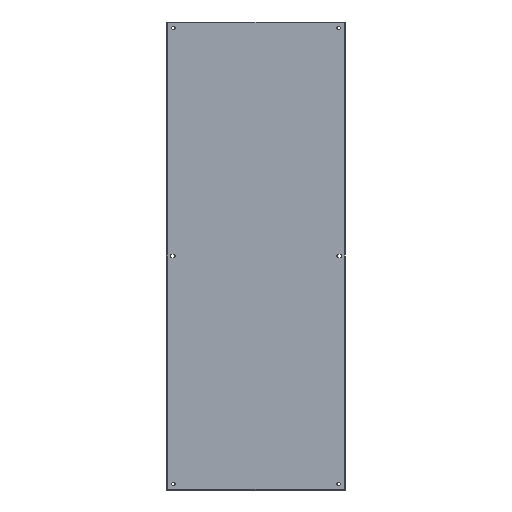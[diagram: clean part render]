
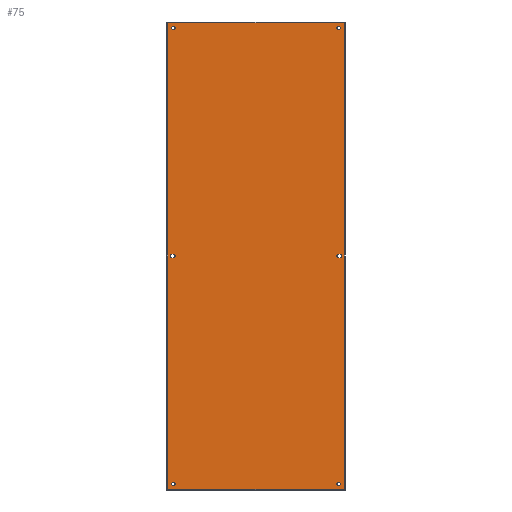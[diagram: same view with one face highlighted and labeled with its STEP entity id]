
A CAD part, front view. The second image highlights one B-rep face of the part: STEP entity #75.
In plain terms, the highlighted planar face has unit normal (0, -1, 0).
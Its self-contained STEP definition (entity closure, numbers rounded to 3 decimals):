
#75 = ADVANCED_FACE( '', ( #154, #155, #156, #157, #158, #159, #160 ), #161, .T. );
#154 = FACE_BOUND( '', #326, .T. );
#155 = FACE_BOUND( '', #327, .T. );
#156 = FACE_BOUND( '', #328, .T. );
#157 = FACE_BOUND( '', #329, .T. );
#158 = FACE_BOUND( '', #330, .T. );
#159 = FACE_OUTER_BOUND( '', #331, .T. );
#160 = FACE_BOUND( '', #332, .T. );
#161 = PLANE( '', #333 );
#326 = EDGE_LOOP( '', ( #906, #907, #908, #909 ) );
#327 = EDGE_LOOP( '', ( #910 ) );
#328 = EDGE_LOOP( '', ( #911 ) );
#329 = EDGE_LOOP( '', ( #912 ) );
#330 = EDGE_LOOP( '', ( #913 ) );
#331 = EDGE_LOOP( '', ( #914, #915, #916, #917 ) );
#332 = EDGE_LOOP( '', ( #918, #919, #920, #921 ) );
#333 = AXIS2_PLACEMENT_3D( '', #922, #923, #924 );
#906 = ORIENTED_EDGE( '', *, *, #1516, .T. );
#907 = ORIENTED_EDGE( '', *, *, #1517, .T. );
#908 = ORIENTED_EDGE( '', *, *, #1518, .T. );
#909 = ORIENTED_EDGE( '', *, *, #1519, .T. );
#910 = ORIENTED_EDGE( '', *, *, #1520, .F. );
#911 = ORIENTED_EDGE( '', *, *, #1521, .F. );
#912 = ORIENTED_EDGE( '', *, *, #1522, .F. );
#913 = ORIENTED_EDGE( '', *, *, #1523, .F. );
#914 = ORIENTED_EDGE( '', *, *, #1524, .F. );
#915 = ORIENTED_EDGE( '', *, *, #1525, .T. );
#916 = ORIENTED_EDGE( '', *, *, #1526, .F. );
#917 = ORIENTED_EDGE( '', *, *, #1527, .T. );
#918 = ORIENTED_EDGE( '', *, *, #1528, .T. );
#919 = ORIENTED_EDGE( '', *, *, #1529, .T. );
#920 = ORIENTED_EDGE( '', *, *, #1530, .T. );
#921 = ORIENTED_EDGE( '', *, *, #1531, .T. );
#922 = CARTESIAN_POINT( '', ( -333.375, 0., -873.125 ) );
#923 = DIRECTION( '', ( 0., -1., 0. ) );
#924 = DIRECTION( '', ( 0., 0., -1. ) );
#1516 = EDGE_CURVE( '', #1716, #1717, #1718, .T. );
#1517 = EDGE_CURVE( '', #1717, #1719, #1720, .T. );
#1518 = EDGE_CURVE( '', #1719, #1721, #1722, .T. );
#1519 = EDGE_CURVE( '', #1721, #1716, #1723, .T. );
#1520 = EDGE_CURVE( '', #1724, #1724, #1725, .T. );
#1521 = EDGE_CURVE( '', #1726, #1726, #1727, .T. );
#1522 = EDGE_CURVE( '', #1728, #1728, #1729, .T. );
#1523 = EDGE_CURVE( '', #1730, #1730, #1731, .T. );
#1524 = EDGE_CURVE( '', #1732, #1733, #1734, .T. );
#1525 = EDGE_CURVE( '', #1732, #1735, #1736, .T. );
#1526 = EDGE_CURVE( '', #1737, #1735, #1738, .T. );
#1527 = EDGE_CURVE( '', #1737, #1733, #1739, .T. );
#1528 = EDGE_CURVE( '', #1740, #1741, #1742, .T. );
#1529 = EDGE_CURVE( '', #1741, #1743, #1744, .T. );
#1530 = EDGE_CURVE( '', #1743, #1745, #1746, .T. );
#1531 = EDGE_CURVE( '', #1745, #1740, #1747, .T. );
#1716 = VERTEX_POINT( '', #2044 );
#1717 = VERTEX_POINT( '', #2045 );
#1718 = LINE( '', #2046, #2047 );
#1719 = VERTEX_POINT( '', #2048 );
#1720 = CIRCLE( '', #2049, 6.35 );
#1721 = VERTEX_POINT( '', #2050 );
#1722 = LINE( '', #2051, #2052 );
#1723 = CIRCLE( '', #2053, 6.35 );
#1724 = VERTEX_POINT( '', #2054 );
#1725 = CIRCLE( '', #2055, 6.35 );
#1726 = VERTEX_POINT( '', #2056 );
#1727 = CIRCLE( '', #2057, 6.35 );
#1728 = VERTEX_POINT( '', #2058 );
#1729 = CIRCLE( '', #2059, 6.35 );
#1730 = VERTEX_POINT( '', #2060 );
#1731 = CIRCLE( '', #2061, 6.35 );
#1732 = VERTEX_POINT( '', #2062 );
#1733 = VERTEX_POINT( '', #2063 );
#1734 = LINE( '', #2064, #2065 );
#1735 = VERTEX_POINT( '', #2066 );
#1736 = LINE( '', #2067, #2068 );
#1737 = VERTEX_POINT( '', #2069 );
#1738 = LINE( '', #2070, #2071 );
#1739 = LINE( '', #2072, #2073 );
#1740 = VERTEX_POINT( '', #2074 );
#1741 = VERTEX_POINT( '', #2075 );
#1742 = LINE( '', #2076, #2077 );
#1743 = VERTEX_POINT( '', #2078 );
#1744 = CIRCLE( '', #2079, 6.35 );
#1745 = VERTEX_POINT( '', #2080 );
#1746 = LINE( '', #2081, #2082 );
#1747 = CIRCLE( '', #2083, 6.35 );
#2044 = CARTESIAN_POINT( '', ( 314.35, 0., -6.35 ) );
#2045 = CARTESIAN_POINT( '', ( 308., 0., -6.35 ) );
#2046 = CARTESIAN_POINT( '', ( 314.35, 0., -6.35 ) );
#2047 = VECTOR( '', #2828, 1000. );
#2048 = CARTESIAN_POINT( '', ( 308., 0., 6.35 ) );
#2049 = AXIS2_PLACEMENT_3D( '', #2829, #2830, #2831 );
#2050 = CARTESIAN_POINT( '', ( 314.35, 0., 6.35 ) );
#2051 = CARTESIAN_POINT( '', ( 308., 0., 6.35 ) );
#2052 = VECTOR( '', #2832, 1000. );
#2053 = AXIS2_PLACEMENT_3D( '', #2833, #2834, #2835 );
#2054 = CARTESIAN_POINT( '', ( -301.625, 0., 850.9 ) );
#2055 = AXIS2_PLACEMENT_3D( '', #2836, #2837, #2838 );
#2056 = CARTESIAN_POINT( '', ( -301.625, 0., -850.9 ) );
#2057 = AXIS2_PLACEMENT_3D( '', #2839, #2840, #2841 );
#2058 = CARTESIAN_POINT( '', ( 314.325, 0., -850.9 ) );
#2059 = AXIS2_PLACEMENT_3D( '', #2842, #2843, #2844 );
#2060 = CARTESIAN_POINT( '', ( 314.325, 0., 850.9 ) );
#2061 = AXIS2_PLACEMENT_3D( '', #2845, #2846, #2847 );
#2062 = CARTESIAN_POINT( '', ( -329.743, 0., -869.493 ) );
#2063 = CARTESIAN_POINT( '', ( -329.743, 0., 869.493 ) );
#2064 = CARTESIAN_POINT( '', ( -329.743, 0., 869.491 ) );
#2065 = VECTOR( '', #2848, 1000. );
#2066 = CARTESIAN_POINT( '', ( 329.743, 0., -869.493 ) );
#2067 = CARTESIAN_POINT( '', ( 329.743, 0., -869.493 ) );
#2068 = VECTOR( '', #2849, 1000. );
#2069 = CARTESIAN_POINT( '', ( 329.743, 0., 869.493 ) );
#2070 = CARTESIAN_POINT( '', ( 329.743, 0., -869.491 ) );
#2071 = VECTOR( '', #2850, 1000. );
#2072 = CARTESIAN_POINT( '', ( 333.375, 0., 869.493 ) );
#2073 = VECTOR( '', #2851, 1000. );
#2074 = CARTESIAN_POINT( '', ( -308., 0., -6.35 ) );
#2075 = CARTESIAN_POINT( '', ( -314.35, 0., -6.35 ) );
#2076 = CARTESIAN_POINT( '', ( -308., 0., -6.35 ) );
#2077 = VECTOR( '', #2852, 1000. );
#2078 = CARTESIAN_POINT( '', ( -314.35, 0., 6.35 ) );
#2079 = AXIS2_PLACEMENT_3D( '', #2853, #2854, #2855 );
#2080 = CARTESIAN_POINT( '', ( -308., 0., 6.35 ) );
#2081 = CARTESIAN_POINT( '', ( -314.35, 0., 6.35 ) );
#2082 = VECTOR( '', #2856, 1000. );
#2083 = AXIS2_PLACEMENT_3D( '', #2857, #2858, #2859 );
#2828 = DIRECTION( '', ( -1., 0., 0. ) );
#2829 = CARTESIAN_POINT( '', ( 308., 0., 0. ) );
#2830 = DIRECTION( '', ( 0., 1., 0. ) );
#2831 = DIRECTION( '', ( 1., 0., 0. ) );
#2832 = DIRECTION( '', ( 1., 0., 0. ) );
#2833 = CARTESIAN_POINT( '', ( 314.35, 0., 0. ) );
#2834 = DIRECTION( '', ( 0., 1., 0. ) );
#2835 = DIRECTION( '', ( -1., 0., 0. ) );
#2836 = CARTESIAN_POINT( '', ( -307.975, 0., 850.9 ) );
#2837 = DIRECTION( '', ( 0., -1., 0. ) );
#2838 = DIRECTION( '', ( 1., 0., 0. ) );
#2839 = CARTESIAN_POINT( '', ( -307.975, 0., -850.9 ) );
#2840 = DIRECTION( '', ( 0., -1., 0. ) );
#2841 = DIRECTION( '', ( 1., 0., 0. ) );
#2842 = CARTESIAN_POINT( '', ( 307.975, 0., -850.9 ) );
#2843 = DIRECTION( '', ( 0., -1., 0. ) );
#2844 = DIRECTION( '', ( 1., 0., 0. ) );
#2845 = CARTESIAN_POINT( '', ( 307.975, 0., 850.9 ) );
#2846 = DIRECTION( '', ( 0., -1., 0. ) );
#2847 = DIRECTION( '', ( 1., 0., 0. ) );
#2848 = DIRECTION( '', ( 0., 0., 1. ) );
#2849 = DIRECTION( '', ( 1., 0., 0. ) );
#2850 = DIRECTION( '', ( 0., 0., -1. ) );
#2851 = DIRECTION( '', ( -1., 0., 0. ) );
#2852 = DIRECTION( '', ( -1., 0., 0. ) );
#2853 = CARTESIAN_POINT( '', ( -314.35, 0., 0. ) );
#2854 = DIRECTION( '', ( 0., 1., 0. ) );
#2855 = DIRECTION( '', ( 1., 0., 0. ) );
#2856 = DIRECTION( '', ( 1., 0., 0. ) );
#2857 = CARTESIAN_POINT( '', ( -308., 0., 0. ) );
#2858 = DIRECTION( '', ( 0., 1., 0. ) );
#2859 = DIRECTION( '', ( -1., 0., 0. ) );
